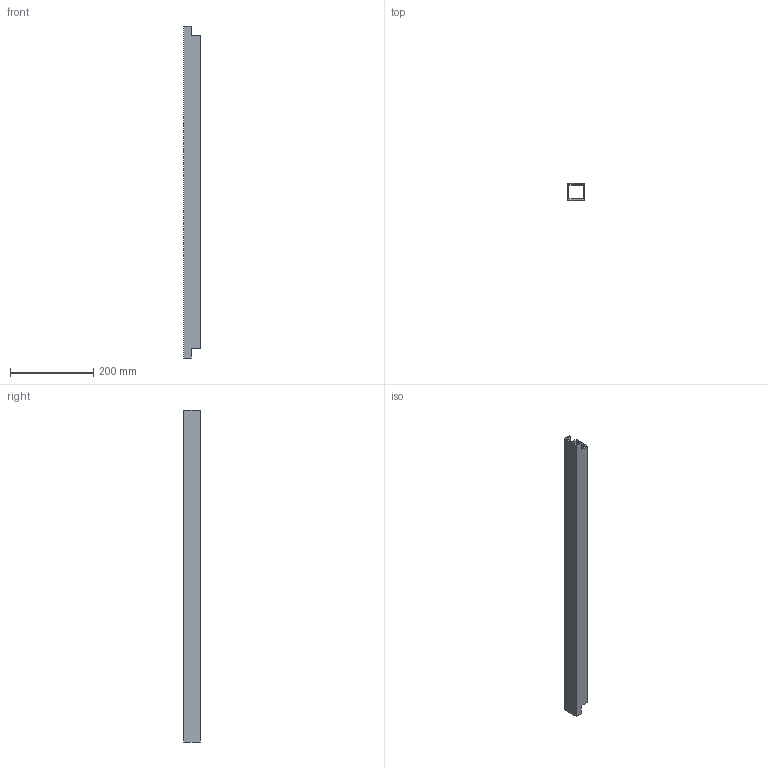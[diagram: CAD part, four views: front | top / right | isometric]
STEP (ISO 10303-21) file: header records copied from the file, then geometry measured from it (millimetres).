
FILE_DESCRIPTION(('Open CASCADE Model'),'2;1');
FILE_NAME('Open CASCADE Shape Model','2026-10-15T15:10:07',('Author'),( 'Open CASCADE'),'Open CASCADE STEP processor 8.0','Open CASCADE 8.0' ,'Unknown');
FILE_SCHEMA(('AUTOMOTIVE_DESIGN { 1 0 10303 214 1 1 1 1 }'));
Length unit declared in the file: millimetre
Products named in the file (1): SHS40x40x3_L800000_P05_JUNTA_20 201
Bounding box: 40 x 40 x 800 mm (x, y, z)
Volume: 344914.3 mm3; surface area: 231084.6 mm2
Topology: 1 solids, 1 shells, 20 faces, 64 edges, 44 vertices
Faces by surface type: plane 16, cylinder 4
Entity records: 1534 total; most frequent: CARTESIAN_POINT 313, DIRECTION 206, LINE 144, VECTOR 144, ORIENTED_EDGE 128, PCURVE 128, DEFINITIONAL_REPRESENTATION 128, EDGE_CURVE 64
